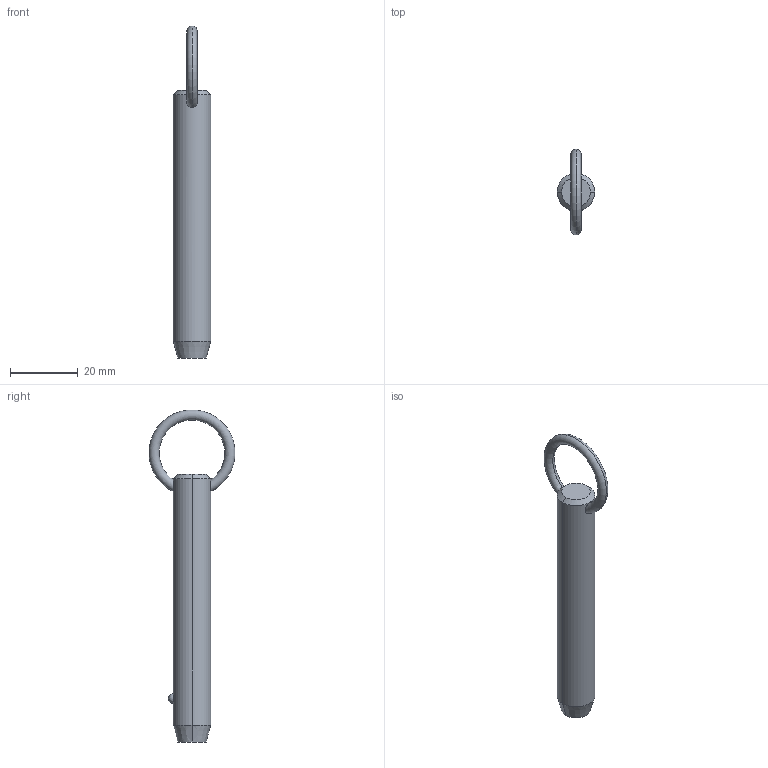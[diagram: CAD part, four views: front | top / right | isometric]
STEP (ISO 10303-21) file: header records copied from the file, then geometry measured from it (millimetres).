
FILE_DESCRIPTION (( 'STEP AP203' ), '1' );
FILE_NAME ('P1250.050-230.step', '2019-07-29T20:32:01', ( '' ), ( '' ), 'SwSTEP 2.0', 'SolidWorks 2017', '' );
FILE_SCHEMA (( 'CONFIG_CONTROL_DESIGN' ));
Length unit declared in the file: millimetre
Products named in the file (1): P1250.050-230
Bounding box: 11.1 x 25.32 x 97.95 mm (x, y, z)
Volume: 7927.5 mm3; surface area: 3407.5 mm2
Topology: 1 solids, 1 shells, 12 faces, 28 edges, 17 vertices
Faces by surface type: cone 4, torus 2, sphere 2, cylinder 2, plane 2
Entity records: 523 total; most frequent: CARTESIAN_POINT 190, DIRECTION 56, ORIENTED_EDGE 48, AXIS2_PLACEMENT_3D 25, EDGE_CURVE 24, VERTEX_POINT 15, EDGE_LOOP 15, CIRCLE 12
